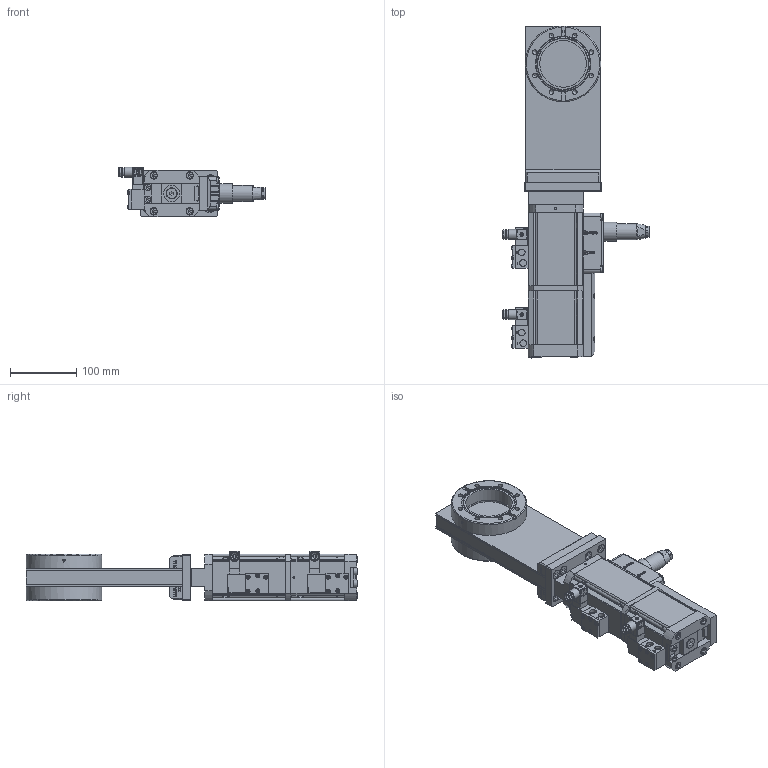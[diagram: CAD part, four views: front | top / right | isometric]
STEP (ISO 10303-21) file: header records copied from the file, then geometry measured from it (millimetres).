
FILE_DESCRIPTION(/* description */ (''),/* implementation_level */ '2;1');
FILE_NAME(/* name */ '1026692480_203.stp',/* time_stamp */ '2016-01-11T09:08:48+01:00',/* author */ (''),/* organization */ (''),/* preprocessor_version */ 'ST-DEVELOPER v15',/* originating_system */ 'SIEMENS PLM Software NX 9.0',/* authorisation */ '');
FILE_SCHEMA (('AP203_CONFIGURATION_CONTROLLED_3D_DESIGN_OF_MECHANICAL_PARTS_AND_ASSEMBLIES_MIM_LF { 1 0 10303 403 2 1 2}'));
Products named in the file (54): 467882; 437235; 441451_24150ID; 21436-01.1_24163ID; 21437-01.1_24162ID; 21438-01.1; 441451_24159ID; 21437-01.1_24158ID; 21436-01.1_24152ID; N-7557-016_1.1; N-7557-018.1; N-7557-016_2.1; N-6024-524.1; N-5018-005.1; N-6013-447.1; N-6005-437.1; N-6005-477.1; N-6005-473.1; 72845-01.1; 72846-01.1; 73706-01.1; 79606-01.2; 72840-01.1; 522502; 94311-01.1; 70738-01.1; 73690-01.1; 522500; 73701-01.1; 70973-01.1; 70988-01.1; n-8504-002; n-6024-548.1; 70987-01.1; N-6024-571.1; 94221-01.1; 73002-01.1; 69127.1; 72872-01.1; 25832.1_24154ID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
Assembly tree (89 placements, depth 4):
  711613
    25833.2_MODEL
      n-6099-454.1  x2
      25832.1
      25832.1_24154ID
      22974-r1.2_MODEL
        21436-01.1_24152ID
        21437-01.1_24158ID
        441451_24159ID
        21438-01.1
        21437-01.1_24162ID
        21436-01.1_24163ID
        441451_24150ID
    790428
    82467-r1.1
      72872-01.1
      69127.1
    218198.1  x8
    63215-01.1
    94234-r1.2
      73002-01.1  x4
      94221-01.1
      N-6024-571.1  x4
    790526
      70987-01.1
      n-6024-548.1  x4
      n-8504-002
      70988-01.1  x2
      70973-01.1
    522503
      73701-01.1  x4
      522500
      73690-01.1
      70738-01.1
      94311-01.1
      522502
      72840-01.1
      79606-01.2
      73706-01.1
      72846-01.1
      72845-01.1
      N-6005-473.1  x2
      N-6005-477.1  x4
      N-6005-437.1  x4
      N-6013-447.1  x2
    94800-r1.7_NX-ARRAGMNTKONFIG1  x2
      N-5018-005.1
      N-6024-524.1
      N-7557-016_2.1
      N-7557-018.1
      N-7557-016_1.1
      N-7557-016_3.1_MODELNX-ARRAGMNTArrangement 1
        437235
        467882
Bounding box: 219.9 x 499.43 x 74.49 mm (x, y, z)
Volume: 1722859.1 mm3; surface area: 617444.7 mm2
Topology: 191 solids, 191 shells, 3821 faces, 9465 edges, 6338 vertices
Faces by surface type: plane 2702, cylinder 714, cone 170, torus 119, extrusion 70, sphere 34, bspline 12
Full cylindrical faces by diameter (mm): 0.7 x1, 1 x1, 1.66 x7, 2 x30, 2.125 x1, 2.5 x18, 2.65 x1, 2.8 x2, 3 x22, 3.2 x4, 3.26 x4, 3.3 x14, 3.4 x8, 3.5 x6, 4 x28, 4.2 x4, 4.22 x2, 4.3 x6, 4.35 x2, 4.4 x8, 4.45 x4, 4.625 x4, 4.75 x8, 4.917 x4, 4.96 x6, 5 x16, 5.5 x2, 5.9 x1, 6 x48, 6.4 x4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
Entity records: 95980 total; most frequent: CARTESIAN_POINT 20966, ORIENTED_EDGE 12440, DIRECTION 11843, EDGE_CURVE 6220, VERTEX_POINT 4488, AXIS2_PLACEMENT_3D 4050, VECTOR 3743, LINE 3677
